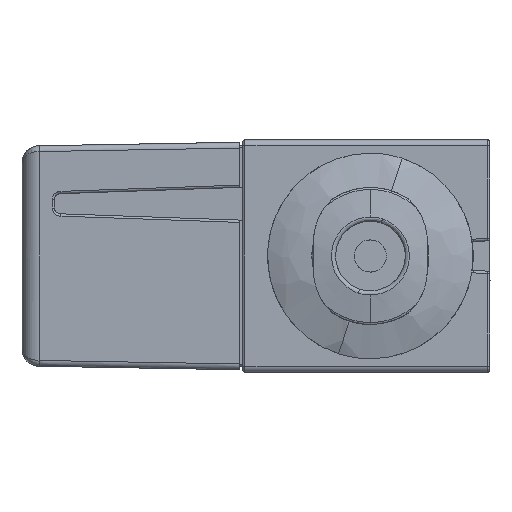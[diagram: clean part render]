
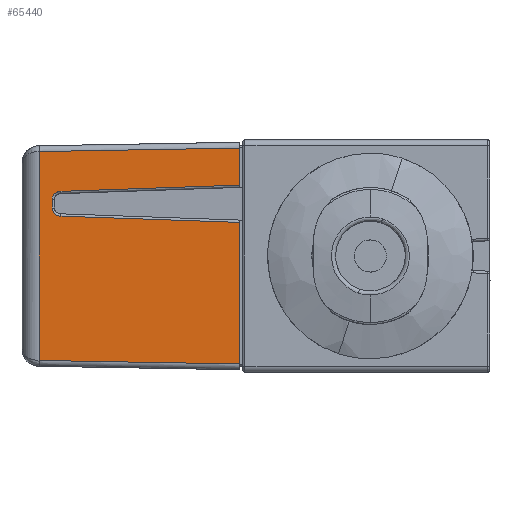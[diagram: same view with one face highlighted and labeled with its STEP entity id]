
A CAD part, left-side view. The second image highlights one B-rep face of the part: STEP entity #65440.
In plain terms, the highlighted planar face has unit normal (-1, 0.018, 0).
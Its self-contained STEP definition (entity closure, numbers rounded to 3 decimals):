
#1864 = CARTESIAN_POINT ( 'NONE',  ( -28.675, 26.728, 3.433 ) ) ;
#2979 = CARTESIAN_POINT ( 'NONE',  ( -28.674, 26.815, 5.564 ) ) ;
#2995 = EDGE_CURVE ( 'NONE', #58613, #53998, #36409, .T. ) ;
#3328 = DIRECTION ( 'NONE',  ( -0.017, -1., 0. ) ) ;
#3475 = CARTESIAN_POINT ( 'NONE',  ( -28.664, 27.403, -9.8 ) ) ;
#4715 = DIRECTION ( 'NONE',  ( -1., 0.017, 0. ) ) ;
#5825 = LINE ( 'NONE', #21452, #16541 ) ;
#6337 = VERTEX_POINT ( 'NONE', #90331 ) ;
#6553 = CARTESIAN_POINT ( 'NONE',  ( -28.67, 27.065, 3.526 ) ) ;
#7135 = VERTEX_POINT ( 'NONE', #29562 ) ;
#7884 = ORIENTED_EDGE ( 'NONE', *, *, #83851, .T. ) ;
#8943 = CARTESIAN_POINT ( 'NONE',  ( -28.67, 27.022, 5.491 ) ) ;
#9858 = CARTESIAN_POINT ( 'NONE',  ( -28.664, 27.403, 4.911 ) ) ;
#10343 = VECTOR ( 'NONE', #54899, 1000. ) ;
#11778 = DIRECTION ( 'NONE',  ( 0., 0., 1. ) ) ;
#12893 = CARTESIAN_POINT ( 'NONE',  ( -28.675, 26.728, 5.567 ) ) ;
#13998 = EDGE_CURVE ( 'NONE', #7135, #72799, #5825, .T. ) ;
#15865 = CARTESIAN_POINT ( 'NONE',  ( -28.945, 11.3, 9.295 ) ) ;
#16471 = CARTESIAN_POINT ( 'NONE',  ( -28.664, 27.403, 4.867 ) ) ;
#16541 = VECTOR ( 'NONE', #41345, 1000. ) ;
#16807 = CARTESIAN_POINT ( 'NONE',  ( -28.664, 27.371, 5.079 ) ) ;
#17264 = CARTESIAN_POINT ( 'NONE',  ( -28.668, 27.174, 5.387 ) ) ;
#19005 = DIRECTION ( 'NONE',  ( 0.017, 0.999, 0.035 ) ) ;
#19073 = CARTESIAN_POINT ( 'NONE',  ( -28.644, 28.526, -8.994 ) ) ;
#19555 = ORIENTED_EDGE ( 'NONE', *, *, #13998, .F. ) ;
#21452 = CARTESIAN_POINT ( 'NONE',  ( -28.945, 11.3, 9.3 ) ) ;
#22012 = VECTOR ( 'NONE', #11778, 1000. ) ;
#23633 = EDGE_CURVE ( 'NONE', #71151, #73878, #23972, .T. ) ;
#23972 = B_SPLINE_CURVE_WITH_KNOTS ( 'NONE', 3,
 ( #25951, #68371, #69744, #41172, #61526, #68817, #6553, #90228, #88837, #48125, #89781, #83680, #34178, #82300, #75334, #33729 ),
 .UNSPECIFIED., .F., .F.,
 ( 4, 1, 2, 2, 2, 1, 2, 2, 4 ),
 ( 0., 0.125, 0.188, 0.25, 0.5, 0.625, 0.687, 0.75, 1. ),
 .UNSPECIFIED. ) ;
#24130 = CARTESIAN_POINT ( 'NONE',  ( -28.671, 26.999, 5.502 ) ) ;
#24443 = VECTOR ( 'NONE', #80285, 1000. ) ;
#24965 = PLANE ( 'NONE',  #43267 ) ;
#25584 = LINE ( 'NONE', #3475, #22012 ) ;
#25951 = CARTESIAN_POINT ( 'NONE',  ( -28.675, 26.728, 3.433 ) ) ;
#26386 = VERTEX_POINT ( 'NONE', #19073 ) ;
#27058 = EDGE_CURVE ( 'NONE', #6337, #53998, #61357, .T. ) ;
#27116 = EDGE_CURVE ( 'NONE', #26386, #72799, #81190, .T. ) ;
#29562 = CARTESIAN_POINT ( 'NONE',  ( -28.945, 11.3, 2.895 ) ) ;
#30611 = CARTESIAN_POINT ( 'NONE',  ( -28.664, 27.383, 5.037 ) ) ;
#32445 = CARTESIAN_POINT ( 'NONE',  ( -28.945, 11.3, -9.295 ) ) ;
#33729 = CARTESIAN_POINT ( 'NONE',  ( -28.664, 27.403, 4.133 ) ) ;
#34178 = CARTESIAN_POINT ( 'NONE',  ( -28.665, 27.348, 3.86 ) ) ;
#34395 = ORIENTED_EDGE ( 'NONE', *, *, #2995, .F. ) ;
#34699 = VECTOR ( 'NONE', #56548, 1000. ) ;
#35656 = CARTESIAN_POINT ( 'NONE',  ( -28.644, 28.526, -9.8 ) ) ;
#36409 = LINE ( 'NONE', #59064, #24443 ) ;
#38829 = LINE ( 'NONE', #54142, #90045 ) ;
#38905 = CARTESIAN_POINT ( 'NONE',  ( -28.665, 27.322, 5.207 ) ) ;
#38940 = B_SPLINE_CURVE_WITH_KNOTS ( 'NONE', 3,
 ( #73509, #9858, #65247, #30611, #16807, #59244, #38905, #80494, #17264, #87498, #79116, #8943, #24130, #72149, #2979, #58815 ),
 .UNSPECIFIED., .F., .F.,
 ( 4, 1, 2, 2, 2, 1, 2, 2, 4 ),
 ( 0., 0.125, 0.187, 0.25, 0.5, 0.625, 0.687, 0.75, 1. ),
 .UNSPECIFIED. ) ;
#39171 = VERTEX_POINT ( 'NONE', #16471 ) ;
#39615 = CARTESIAN_POINT ( 'NONE',  ( -28.644, 28.526, -8.994 ) ) ;
#40070 = DIRECTION ( 'NONE',  ( -0.017, -0.999, 0.035 ) ) ;
#41172 = CARTESIAN_POINT ( 'NONE',  ( -28.673, 26.897, 3.46 ) ) ;
#41345 = DIRECTION ( 'NONE',  ( 0., 0., -1. ) ) ;
#42137 = ORIENTED_EDGE ( 'NONE', *, *, #27058, .T. ) ;
#42223 = ORIENTED_EDGE ( 'NONE', *, *, #49150, .T. ) ;
#42387 = CARTESIAN_POINT ( 'NONE',  ( -28.644, 28.526, 8.994 ) ) ;
#43020 = ORIENTED_EDGE ( 'NONE', *, *, #76737, .T. ) ;
#43267 = AXIS2_PLACEMENT_3D ( 'NONE', #52756, #4715, #3328 ) ;
#45413 = CARTESIAN_POINT ( 'NONE',  ( -28.945, 11.3, 6.105 ) ) ;
#45795 = VERTEX_POINT ( 'NONE', #42387 ) ;
#46219 = ORIENTED_EDGE ( 'NONE', *, *, #79173, .T. ) ;
#48125 = CARTESIAN_POINT ( 'NONE',  ( -28.666, 27.283, 3.735 ) ) ;
#49150 = EDGE_CURVE ( 'NONE', #7135, #71151, #38829, .T. ) ;
#49175 = LINE ( 'NONE', #56995, #34699 ) ;
#52756 = CARTESIAN_POINT ( 'NONE',  ( -28.95, 11., -9.8 ) ) ;
#53202 = FACE_OUTER_BOUND ( 'NONE', #87870, .T. ) ;
#53998 = VERTEX_POINT ( 'NONE', #45413 ) ;
#54142 = CARTESIAN_POINT ( 'NONE',  ( -28.945, 11.3, 2.895 ) ) ;
#54899 = DIRECTION ( 'NONE',  ( -0.017, -1., -0.017 ) ) ;
#56548 = DIRECTION ( 'NONE',  ( 0.017, 1., -0.017 ) ) ;
#56995 = CARTESIAN_POINT ( 'NONE',  ( -28.945, 11.3, 9.295 ) ) ;
#58613 = VERTEX_POINT ( 'NONE', #15865 ) ;
#58815 = CARTESIAN_POINT ( 'NONE',  ( -28.675, 26.728, 5.567 ) ) ;
#59064 = CARTESIAN_POINT ( 'NONE',  ( -28.945, 11.3, 9.3 ) ) ;
#59244 = CARTESIAN_POINT ( 'NONE',  ( -28.664, 27.365, 5.098 ) ) ;
#61357 = LINE ( 'NONE', #12893, #90072 ) ;
#61526 = CARTESIAN_POINT ( 'NONE',  ( -28.672, 26.938, 3.473 ) ) ;
#62134 = EDGE_CURVE ( 'NONE', #39171, #6337, #38940, .T. ) ;
#62381 = ORIENTED_EDGE ( 'NONE', *, *, #23633, .T. ) ;
#62540 = DIRECTION ( 'NONE',  ( 0., 0., -1. ) ) ;
#62996 = LINE ( 'NONE', #35656, #79712 ) ;
#65247 = CARTESIAN_POINT ( 'NONE',  ( -28.664, 27.398, 4.975 ) ) ;
#65440 = ADVANCED_FACE ( 'NONE', ( #53202 ), #24965, .T. ) ;
#68371 = CARTESIAN_POINT ( 'NONE',  ( -28.675, 26.771, 3.435 ) ) ;
#68817 = CARTESIAN_POINT ( 'NONE',  ( -28.671, 26.957, 3.48 ) ) ;
#69744 = CARTESIAN_POINT ( 'NONE',  ( -28.674, 26.835, 3.443 ) ) ;
#71151 = VERTEX_POINT ( 'NONE', #1864 ) ;
#72149 = CARTESIAN_POINT ( 'NONE',  ( -28.672, 26.899, 5.545 ) ) ;
#72799 = VERTEX_POINT ( 'NONE', #32445 ) ;
#73070 = ORIENTED_EDGE ( 'NONE', *, *, #27116, .T. ) ;
#73509 = CARTESIAN_POINT ( 'NONE',  ( -28.664, 27.403, 4.867 ) ) ;
#73878 = VERTEX_POINT ( 'NONE', #75332 ) ;
#75332 = CARTESIAN_POINT ( 'NONE',  ( -28.664, 27.403, 4.133 ) ) ;
#75334 = CARTESIAN_POINT ( 'NONE',  ( -28.664, 27.403, 4.045 ) ) ;
#76737 = EDGE_CURVE ( 'NONE', #58613, #45795, #49175, .T. ) ;
#78639 = ORIENTED_EDGE ( 'NONE', *, *, #62134, .T. ) ;
#79116 = CARTESIAN_POINT ( 'NONE',  ( -28.67, 27.062, 5.469 ) ) ;
#79173 = EDGE_CURVE ( 'NONE', #73878, #39171, #25584, .T. ) ;
#79712 = VECTOR ( 'NONE', #62540, 1000. ) ;
#80285 = DIRECTION ( 'NONE',  ( 0., 0., -1. ) ) ;
#80494 = CARTESIAN_POINT ( 'NONE',  ( -28.666, 27.272, 5.286 ) ) ;
#81190 = LINE ( 'NONE', #39615, #10343 ) ;
#82300 = CARTESIAN_POINT ( 'NONE',  ( -28.664, 27.388, 3.961 ) ) ;
#83680 = CARTESIAN_POINT ( 'NONE',  ( -28.665, 27.338, 3.837 ) ) ;
#83851 = EDGE_CURVE ( 'NONE', #45795, #26386, #62996, .T. ) ;
#87498 = CARTESIAN_POINT ( 'NONE',  ( -28.669, 27.121, 5.432 ) ) ;
#87870 = EDGE_LOOP ( 'NONE', ( #7884, #73070, #19555, #42223, #62381, #46219, #78639, #42137, #34395, #43020 ) ) ;
#88837 = CARTESIAN_POINT ( 'NONE',  ( -28.667, 27.24, 3.68 ) ) ;
#89781 = CARTESIAN_POINT ( 'NONE',  ( -28.665, 27.317, 3.795 ) ) ;
#90045 = VECTOR ( 'NONE', #19005, 1000. ) ;
#90072 = VECTOR ( 'NONE', #40070, 1000. ) ;
#90228 = CARTESIAN_POINT ( 'NONE',  ( -28.668, 27.142, 3.579 ) ) ;
#90331 = CARTESIAN_POINT ( 'NONE',  ( -28.675, 26.728, 5.567 ) ) ;
